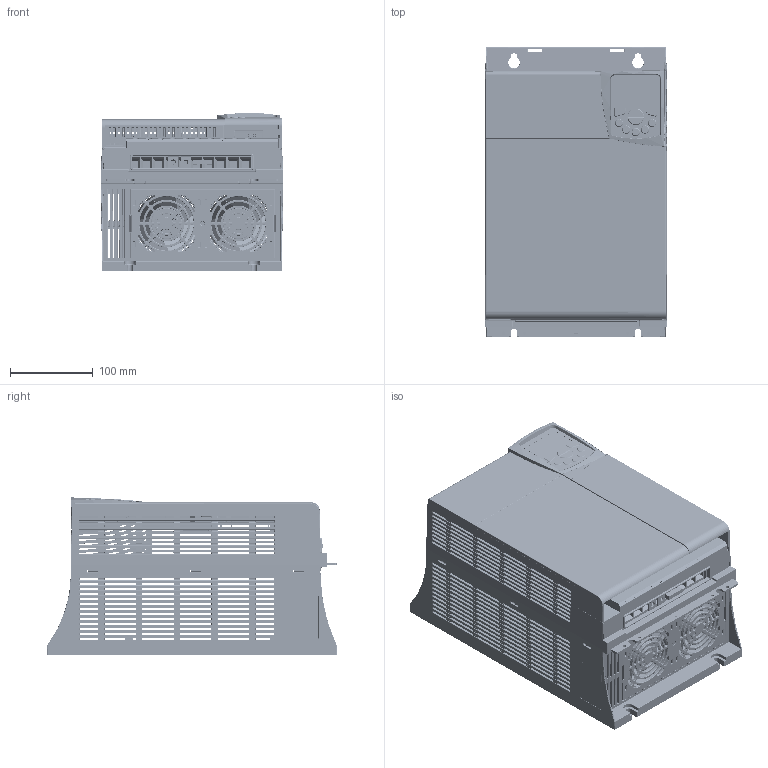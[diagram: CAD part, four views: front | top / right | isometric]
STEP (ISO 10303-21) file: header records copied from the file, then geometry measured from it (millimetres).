
FILE_DESCRIPTION (( 'STEP AP214' ), '1' );
FILE_NAME ('CFW500 MEC E IP20.STEP', '2015-12-11T16:58:42', ( 'Usuário do Windows' ), ( 'WEG Equipamentos Elétricos' ), 'SwSTEP 2.0', 'SolidWorks 2015', '' );
FILE_SCHEMA (( 'AUTOMOTIVE_DESIGN' ));
Length unit declared in the file: millimetre
Products named in the file (1): CFW500 MEC E IP20
Bounding box: 220 x 350 x 191.49 mm (x, y, z)
Volume: 1427634.4 mm3; surface area: 1056008 mm2
Topology: 15 solids, 15 shells, 18745 faces, 48374 edges, 28605 vertices
Faces by surface type: cylinder 6496, plane 6346, bspline 4795, sphere 587, cone 347, torus 174
Entity records: 877462 total; most frequent: CARTESIAN_POINT 271475, ORIENTED_EDGE 94488, DIRECTION 70554, EDGE_CURVE 47244, VERTEX_POINT 28604, VECTOR 24300, LINE 24300, AXIS2_PLACEMENT_3D 23127
